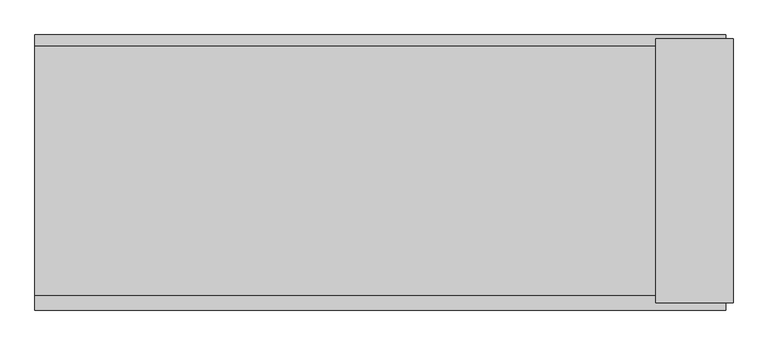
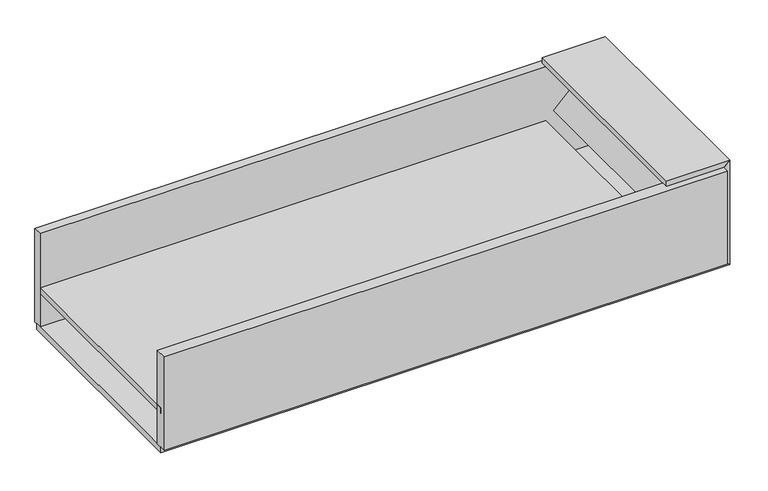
"""IFC4 building model written with IfcOpenShell, lengths in millimetres: proxy geometry, BASYS^WIRE WALLS_72 WIRE WALL-ACCESS LEFT."""

from ifc_helpers import new_model, si_unit, frame, origin, origin_with_axes, place, context, project, spatial, polyline, outline, extrude, source, transform, mapped, element, save


def generic_models_dd2f084d(model_context):
    return source(origin(), model_context, "Body", "SweptSolid", [
        extrude(outline(polyline([(0.0, -692.15), (0.0, -654.05), (1809.75, -654.05), (1809.75, -692.15), (0.0, -692.15)])), frame((0.0, 0.0, -114.3), z_axis=(0.0, 0.0, 1.0), x_axis=(1.0, 0.0, 0.0)), (0.0, 0.0, 1.0), 317.5),
        extrude(outline(polyline([(203.2, 1809.75), (222.25, 1828.8), (222.25, 1625.6), (203.2, 1625.6), (203.2, 1809.75)])), frame((0.0, -673.1, 0.0), z_axis=(0.0, 1.0, 0.0), x_axis=(0.0, 0.0, 1.0)), (0.0, 0.0, 1.0), 692.15),
        extrude(outline(polyline([(44.45, 1651.0), (-133.35, 1828.8), (222.25, 1828.8), (44.45, 1651.0)])), frame((0.0, -673.1, 0.0), z_axis=(0.0, 1.0, 0.0), x_axis=(0.0, 0.0, 1.0)), (0.0, 0.0, 1.0), 692.15),
        extrude(outline(polyline([(-133.35, 1828.8), (-114.3, 1809.75), (-114.3, 0.0), (-133.35, 0.0), (-133.35, 1828.8)])), frame((0.0, -673.1, 0.0), z_axis=(0.0, 1.0, 0.0), x_axis=(0.0, 0.0, 1.0)), (0.0, 0.0, 1.0), 692.15),
        extrude(outline(polyline([(1809.75, 0.0), (0.0, 0.0), (0.0, 28.575), (1809.75, 28.575), (1809.75, 0.0)])), frame((0.0, 0.0, -114.3), z_axis=(0.0, 0.0, 1.0), x_axis=(1.0, 0.0, 0.0)), (0.0, 0.0, 1.0), 317.5),
        extrude(outline(polyline([(0.0, 19.05), (1625.6, 19.05), (1625.6, -673.1), (0.0, -673.1), (0.0, 19.05)])), origin_with_axes(), (0.0, 0.0, 1.0), 19.05),
    ])


if __name__ == "__main__":
    model = new_model("IFC4")
    model_context = context("Model", 3, world=origin())
    ifc_project = project(units=[si_unit("LENGTHUNIT", "METRE", prefix="MILLI")], contexts=[model_context])
    site = spatial("IfcSite", under=ifc_project)
    building = spatial("IfcBuilding", under=site)
    placement = place(None, origin())
    generic_models_shape = generic_models_dd2f084d(model_context)
    element("IfcBuildingElementProxy", 1, Name="BASYS^WIRE WALLS_72 WIRE WALL-ACCESS LEFT", ObjectType="BASYS^WIRE WALLS_72 WIRE WALL-ACCESS LEFT", at=placement, inside=building, context=model_context, shape_type="MappedRepresentation", body=[
        mapped(generic_models_shape, transform((0.0, 0.0, 0.0), x_axis=(1.0, 0.0, 0.0), y_axis=(0.0, 1.0, 0.0), z_axis=(0.0, 0.0, 1.0))),
    ])
    save(model, "model.ifc")
